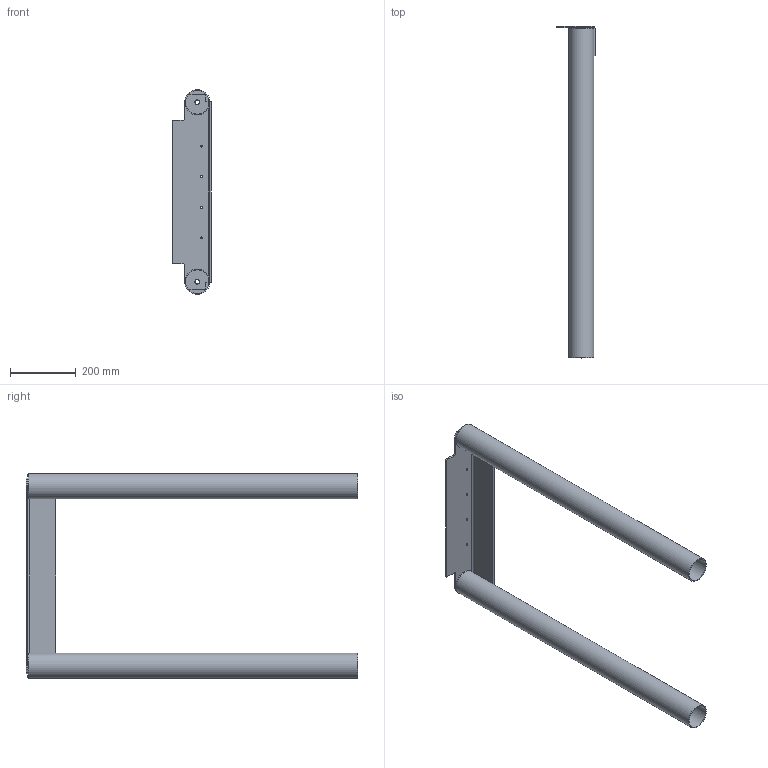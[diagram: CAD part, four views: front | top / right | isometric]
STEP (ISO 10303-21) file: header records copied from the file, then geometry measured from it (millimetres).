
FILE_DESCRIPTION(/* description */ (''),/* implementation_level */ '2;1');
FILE_NAME(/* name */ 'F:\_Inventor\- Tegningsmateriale - kunder\PlayNsafe\PlayNsafe Rutchebaner\terrænmonteringssæt\TM-050-001.stp',/* time_stamp */ '2026-09-07T14:59:04+02:00',/* author */ ('jm'),/* organization */ (''),/* preprocessor_version */ 'ST-DEVELOPER v18.1',/* originating_system */ 'Autodesk Inventor 2022',/* authorisation */ '');
FILE_SCHEMA (('AUTOMOTIVE_DESIGN { 1 0 10303 214 3 1 1 }'));
Length unit declared in the file: millimetre
Products named in the file (4): TM-500-001; rør til jord montering; ende plade til rør til jord montering; terræn monteringsflange 500
Assembly tree (5 placements, depth 2):
  TM-500-001
    rør til jord montering  x2
    ende plade til rør til jord montering  x2
    terræn monteringsflange 500
Bounding box: 118 x 1007 x 621 mm (x, y, z)
Volume: 1485604 mm3; surface area: 1173722.5 mm2
Topology: 5 solids, 5 shells, 50 faces, 112 edges, 73 vertices
Faces by surface type: plane 28, cylinder 22
Full cylindrical faces by diameter (mm): 6 x4, 13 x2, 14 x2, 72 x2, 74 x2, 76 x2
Entity records: 1420 total; most frequent: DIRECTION 238, CARTESIAN_POINT 216, ORIENTED_EDGE 200, EDGE_CURVE 100, AXIS2_PLACEMENT_3D 87, LINE 64, VECTOR 64, VERTEX_POINT 64
